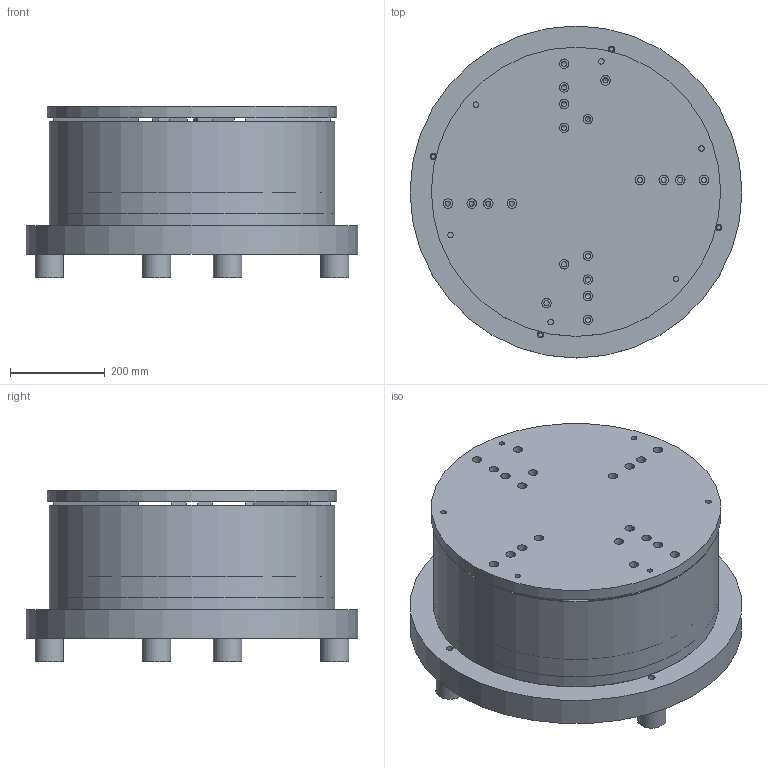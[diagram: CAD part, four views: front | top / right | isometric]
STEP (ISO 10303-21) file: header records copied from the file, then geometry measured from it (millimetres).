
FILE_DESCRIPTION(/* description */ (''),/* implementation_level */ '2;1');
FILE_NAME(/* name */ 'DF600.stp',/* time_stamp */ '2022-04-15T11:41:18+08:00',/* author */ (''),/* organization */ (''),/* preprocessor_version */ 'ST-DEVELOPER v18.102',/* originating_system */ 'SIEMENS PLM Software NX 2019',/* authorisation */ '');
FILE_SCHEMA (('AUTOMOTIVE_DESIGN { 1 0 10303 214 3 1 1 1 }'));
Length unit declared in the file: millimetre
Products named in the file (1): DF600_stp_objects
Bounding box: 700 x 700 x 362.17 mm (x, y, z)
Volume: 49444125.6 mm3; surface area: 3899371.2 mm2
Topology: 6 solids, 7 shells, 562 faces, 1471 edges, 992 vertices
Faces by surface type: plane 323, cylinder 197, cone 34, torus 8
Full cylindrical faces by diameter (mm): 8.5 x8, 9 x4, 10 x8, 10.5 x8, 11 x18, 11.024 x2, 11.5 x6, 13 x60, 14 x4, 20 x36, 60 x4, 150 x1, 598 x1, 600 x2, 602 x1, 610 x1, 700 x1
Entity records: 17270 total; most frequent: CARTESIAN_POINT 3348, DIRECTION 2754, ORIENTED_EDGE 2398, EDGE_CURVE 1199, AXIS2_PLACEMENT_3D 1029, EDGE_LOOP 984, VERTEX_POINT 879, LINE 696
